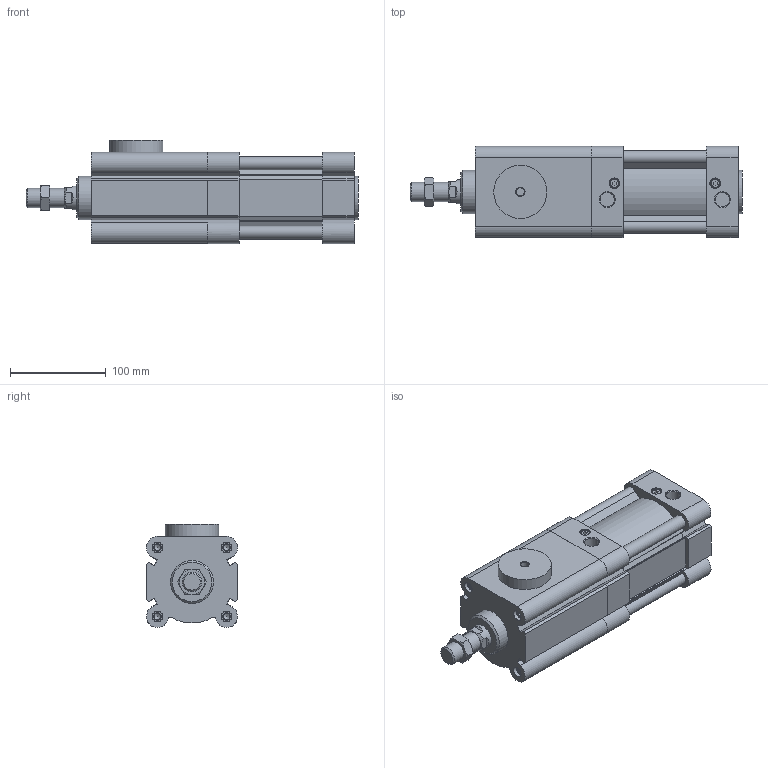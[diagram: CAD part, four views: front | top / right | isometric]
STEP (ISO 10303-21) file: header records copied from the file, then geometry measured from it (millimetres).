
FILE_DESCRIPTION(/* description */ ('STEP AP214'),/* implementation_level */ '2;1');
FILE_NAME(/* name */ 'BSAI80X25S+()+(0)',/* time_stamp */ '2024-10-01T21:13:11+02:00',/* author */ ('License CC BY-ND 4.0'),/* organization */ ('CADENAS'),/* preprocessor_version */ 'ST-DEVELOPER v19.3',/* originating_system */ 'PARTsolutions',/* authorisation */ ' ');
FILE_SCHEMA (('AUTOMOTIVE_DESIGN {1 0 10303 214 3 1 1}'));
Length unit declared in the file: millimetre
Products named in the file (5): BSAI80X25S+()+(0); BSAI80X25S+()+(0)_dummy; BSAI-80x25_body; BSAI-80x25_rod; SI-80-M20x1.5 - Nut
Assembly tree (4 placements, depth 2):
  BSAI80X25S+()+(0)
    BSAI80X25S+()+(0)_dummy
    BSAI-80x25_body
    BSAI-80x25_rod
    SI-80-M20x1.5 - Nut
Bounding box: 346 x 95 x 107.5 mm (x, y, z)
Volume: 2060531 mm3; surface area: 238028.5 mm2
Topology: 3 solids, 3 shells, 262 faces, 646 edges, 415 vertices
Faces by surface type: plane 164, cylinder 58, cone 40
Full cylindrical faces by diameter (mm): 6.917 x8, 8.566 x1, 9.5 x2, 10 x2, 11 x8, 14.95 x2, 18.376 x1, 20 x1, 25 x2, 45 x2, 55.5 x1, 80 x2
Entity records: 7432 total; most frequent: CARTESIAN_POINT 1338, DIRECTION 1238, ORIENTED_EDGE 1142, EDGE_CURVE 571, AXIS2_PLACEMENT_3D 428, VERTEX_POINT 407, LINE 382, VECTOR 382
